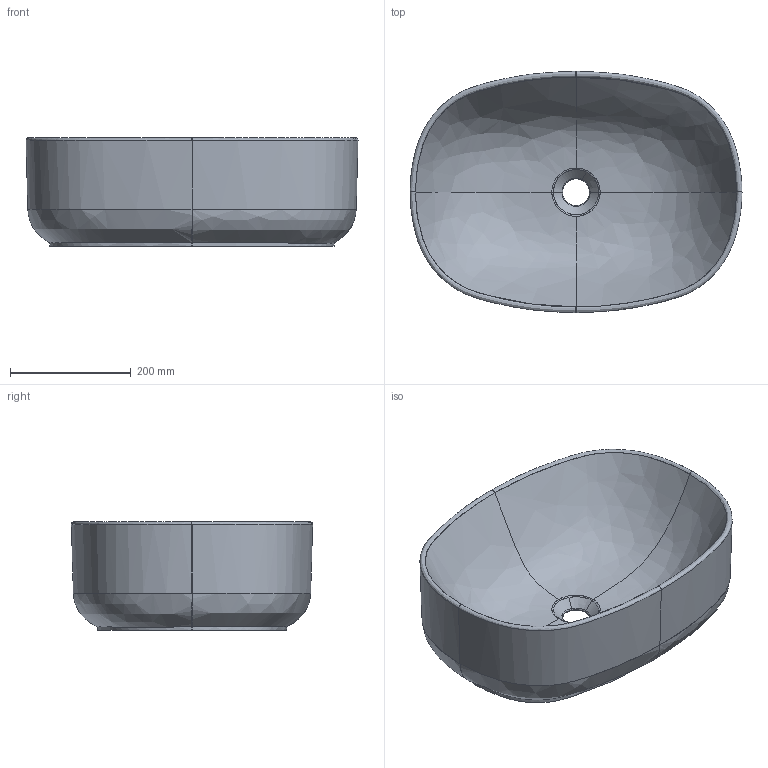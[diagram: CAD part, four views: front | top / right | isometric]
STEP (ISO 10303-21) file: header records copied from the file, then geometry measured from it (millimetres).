
FILE_DESCRIPTION(/* description */ (''),/* implementation_level */ '2;1');
FILE_NAME(/* name */ 'LAVABO~1',/* time_stamp */ '2019-12-16T10:51:20+01:00',/* author */ (''),/* organization */ (''),/* preprocessor_version */ 'ST-DEVELOPER v16.5',/* originating_system */ '',/* authorisation */ '');
FILE_SCHEMA (('AUTOMOTIVE_DESIGN'));
Length unit declared in the file: millimetre
Products named in the file (1): Document
Bounding box: 550 x 399.69 x 180.16 mm (x, y, z)
Surface area: 564291.7 mm2 (no closed solid volume)
Topology: 0 solids, 27 shells, 33 faces, 117 edges, 108 vertices
Faces by surface type: bspline 31, plane 2
Entity records: 14675 total; most frequent: CARTESIAN_POINT 13968, ORIENTED_EDGE 126, EDGE_CURVE 117, B_SPLINE_CURVE_WITH_KNOTS 117, VERTEX_POINT 108, ADVANCED_FACE 33, FACE_OUTER_BOUND 33, EDGE_LOOP 33
